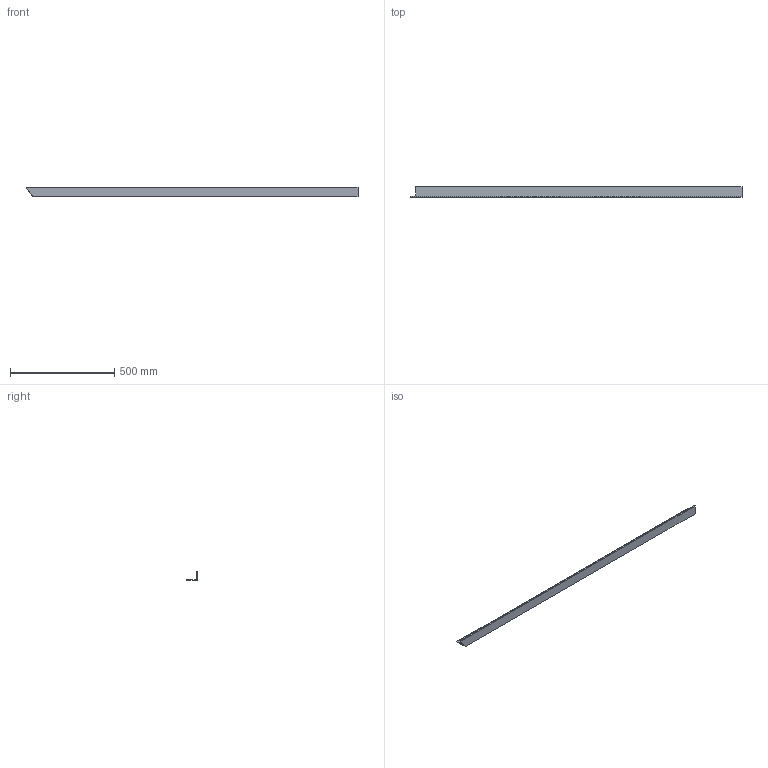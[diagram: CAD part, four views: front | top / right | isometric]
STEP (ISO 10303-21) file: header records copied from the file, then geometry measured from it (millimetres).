
FILE_DESCRIPTION(/* description */ (''),/* implementation_level */ '2;1');
FILE_NAME(/* name */ 'bar_4_right',/* time_stamp */ '2018-02-20T19:20:34+01:00',/* author */ (''),/* organization */ (''),/* preprocessor_version */ 'ST-DEVELOPER v14',/* originating_system */ '',/* authorisation */ '');
FILE_SCHEMA (('CONFIG_CONTROL_DESIGN'));
Length unit declared in the file: millimetre
Products named in the file (1): Document
Bounding box: 1595.3 x 51.55 x 47 mm (x, y, z)
Surface area: 309873.8 mm2 (no closed solid volume)
Topology: 0 solids, 1 shells, 6 faces, 18 edges, 12 vertices
Faces by surface type: bspline 6
Entity records: 302 total; most frequent: CARTESIAN_POINT 114, ORIENTED_EDGE 24, EDGE_CURVE 18, B_SPLINE_CURVE_WITH_KNOTS 18, VERTEX_POINT 12, ORGANIZATION 7, PERSON_AND_ORGANIZATION 7, ADVANCED_FACE 6
